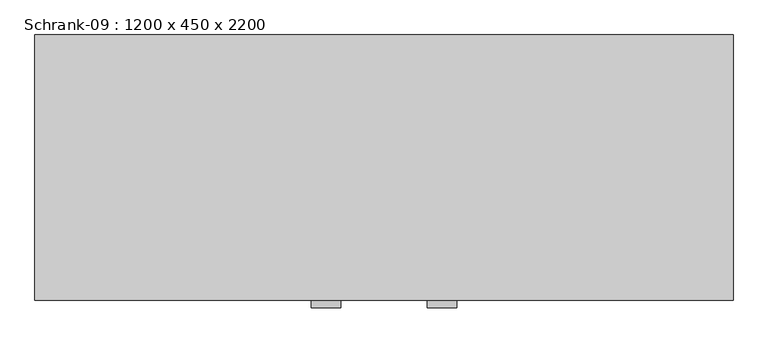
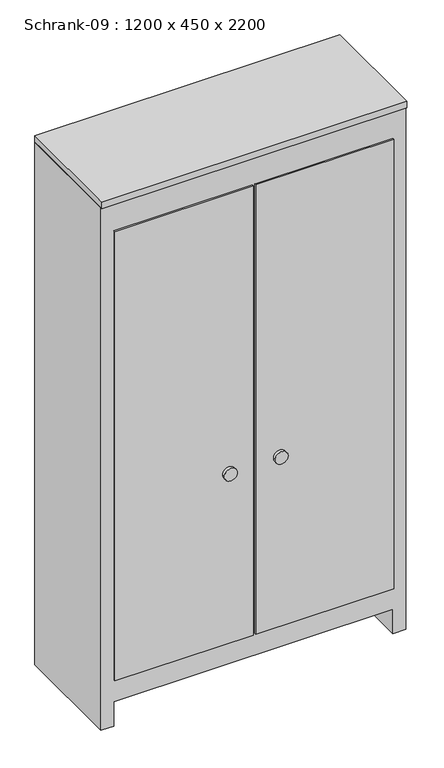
"""IFC4 building model written with IfcOpenShell, lengths in millimetres: furniture geometry, Schrank-09 : 1200 x 450 x 2200."""

from ifc_helpers import new_model, si_unit, point, frame, frame_2d, origin, place, context, project, spatial, polyline, circle_curve, trimmed, segment, composite_curve, outline, extrude, source, transform, mapped, element, save


def schrank_09_1200_x_450_x_2200_a26f84f2(model_context):
    return source(origin(), model_context, "Body", "SweptSolid", [
        extrude(outline(polyline([(0.0, 330.8067402), (2174.6, 330.8067402), (2174.6, -869.1932598), (0.0, -869.1932598), (0.0, -818.3932598), (101.6, -818.3932598), (101.6, 280.0067402), (0.0, 280.0067402), (0.0, 330.8067402)])), frame((0.0, -588.1629541, 0.0), z_axis=(0.0, 1.0, 0.0), x_axis=(0.0, 0.0, 1.0)), (0.0, 0.0, 1.0), 450.0),
        extrude(outline(composite_curve([segment(trimmed(circle_curve(frame_2d((900.0, -169.1932598)), 25.4), [point((900.0, -194.5932598))], [point((900.0, -143.7932598))], False, "CARTESIAN"), True, "CONTINUOUS"), segment(trimmed(circle_curve(frame_2d((900.0, -169.1932598)), 25.4), [point((900.0, -143.7932598))], [point((900.0, -194.5932598))], False, "CARTESIAN"), True, "CONTINUOUS")], self_intersect=False)), frame((0.0, -607.2129541, 0.0), z_axis=(0.0, 1.0, 0.0), x_axis=(0.0, 0.0, 1.0)), (0.0, 0.0, 1.0), 12.7),
        extrude(outline(composite_curve([segment(trimmed(circle_curve(frame_2d((900.0, -369.1932598)), 25.4), [point((900.0, -394.5932598))], [point((900.0, -343.7932598))], False, "CARTESIAN"), True, "CONTINUOUS"), segment(trimmed(circle_curve(frame_2d((900.0, -369.1932598)), 25.4), [point((900.0, -343.7932598))], [point((900.0, -394.5932598))], False, "CARTESIAN"), True, "CONTINUOUS")], self_intersect=False)), frame((0.0, -607.2129541, 0.0), z_axis=(0.0, 1.0, 0.0), x_axis=(0.0, 0.0, 1.0)), (0.0, 0.0, 1.0), 12.7),
        extrude(outline(polyline([(280.0067402, -594.5129541), (-264.1932598, -594.5129541), (-264.1932598, -588.1629541), (280.0067402, -588.1629541), (280.0067402, -594.5129541)])), frame((0.0, 0.0, 191.3), z_axis=(0.0, 0.0, 1.0), x_axis=(1.0, 0.0, 0.0)), (0.0, 0.0, 1.0), 1869.8),
        extrude(outline(polyline([(-274.1932598, -594.5129541), (-818.3932598, -594.5129541), (-818.3932598, -588.1629541), (-274.1932598, -588.1629541), (-274.1932598, -594.5129541)])), frame((0.0, 0.0, 191.3), z_axis=(0.0, 0.0, 1.0), x_axis=(1.0, 0.0, 0.0)), (0.0, 0.0, 1.0), 1869.8),
        extrude(outline(polyline([(330.8067402, -138.1629541), (330.8067402, -594.5129541), (-869.1932598, -594.5129541), (-869.1932598, -138.1629541), (330.8067402, -138.1629541)])), frame((0.0, 0.0, 2174.6), z_axis=(0.0, 0.0, 1.0), x_axis=(1.0, 0.0, 0.0)), (0.0, 0.0, 1.0), 25.4),
    ])


if __name__ == "__main__":
    model = new_model("IFC4")
    model_context = context("Model", 3, world=origin())
    ifc_project = project(units=[si_unit("LENGTHUNIT", "METRE", prefix="MILLI")], contexts=[model_context])
    site = spatial("IfcSite", under=ifc_project)
    building = spatial("IfcBuilding", under=site)
    placement = place(None, origin())
    schrank_09_1200_x_450_x_2200_shape = schrank_09_1200_x_450_x_2200_a26f84f2(model_context)
    element("IfcFurniture", 1, ObjectType="Schrank-09 : 1200 x 450 x 2200", at=placement, inside=building, context=model_context, shape_type="MappedRepresentation", body=[
        mapped(schrank_09_1200_x_450_x_2200_shape, transform((0.0, 0.0, 0.0), x_axis=(1.0, 0.0, 0.0), y_axis=(0.0, 1.0, 0.0), z_axis=(0.0, 0.0, 1.0))),
    ])
    save(model, "model.ifc")
